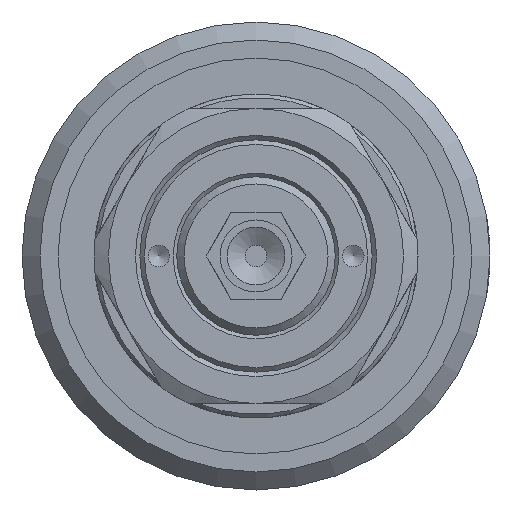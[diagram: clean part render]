
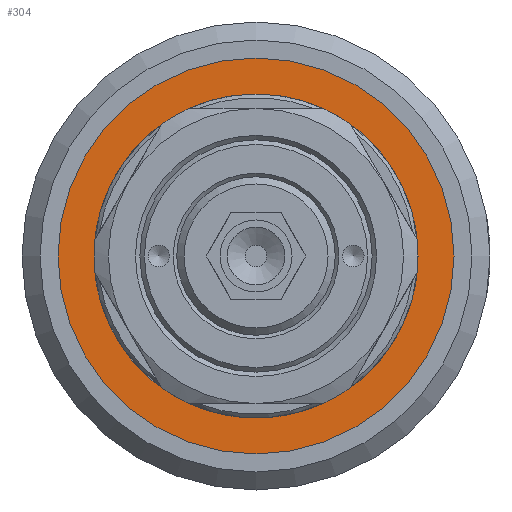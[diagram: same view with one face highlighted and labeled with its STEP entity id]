
A CAD part, left-side view. The second image highlights one B-rep face of the part: STEP entity #304.
In plain terms, the highlighted planar face has unit normal (-1, 0, 0).
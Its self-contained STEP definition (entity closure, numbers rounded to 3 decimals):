
#304 = ADVANCED_FACE( '', ( #697, #698 ), #699, .T. );
#697 = FACE_OUTER_BOUND( '', #1159, .T. );
#698 = FACE_BOUND( '', #1160, .T. );
#699 = PLANE( '', #1161 );
#1159 = EDGE_LOOP( '', ( #1913 ) );
#1160 = EDGE_LOOP( '', ( #1914 ) );
#1161 = AXIS2_PLACEMENT_3D( '', #1915, #1916, #1917 );
#1913 = ORIENTED_EDGE( '', *, *, #2358, .T. );
#1914 = ORIENTED_EDGE( '', *, *, #2392, .F. );
#1915 = CARTESIAN_POINT( '', ( 55., 0., 22.5 ) );
#1916 = DIRECTION( '', ( -1., 0., 0. ) );
#1917 = DIRECTION( '', ( 0., 0., 1. ) );
#2358 = EDGE_CURVE( '', #2759, #2759, #2760, .T. );
#2392 = EDGE_CURVE( '', #2818, #2818, #2819, .T. );
#2759 = VERTEX_POINT( '', #3371 );
#2760 = CIRCLE( '', #3372, 27.5 );
#2818 = VERTEX_POINT( '', #3513 );
#2819 = CIRCLE( '', #3514, 22.5 );
#3371 = CARTESIAN_POINT( '', ( 55., 0., 27.5 ) );
#3372 = AXIS2_PLACEMENT_3D( '', #4195, #4196, #4197 );
#3513 = CARTESIAN_POINT( '', ( 55., 0., 22.5 ) );
#3514 = AXIS2_PLACEMENT_3D( '', #4246, #4247, #4248 );
#4195 = CARTESIAN_POINT( '', ( 55., 0., 0. ) );
#4196 = DIRECTION( '', ( -1., 0., 0. ) );
#4197 = DIRECTION( '', ( 0., 0., 1. ) );
#4246 = CARTESIAN_POINT( '', ( 55., 0., 0. ) );
#4247 = DIRECTION( '', ( -1., 0., 0. ) );
#4248 = DIRECTION( '', ( 0., 0., 1. ) );
